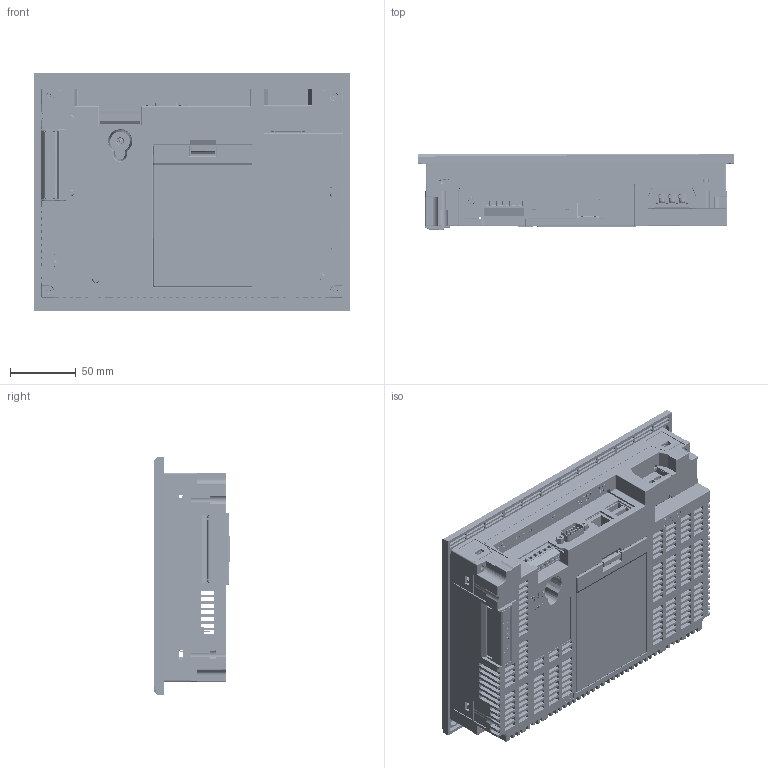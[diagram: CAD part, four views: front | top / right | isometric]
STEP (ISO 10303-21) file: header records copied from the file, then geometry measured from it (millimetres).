
FILE_DESCRIPTION((''),'2;1');
FILE_NAME('IXP50_ASM_160817_IGS','2016-08-17T',('jwkwack'),(''),'PRO/ENGINEER BY PARAMETRIC TECHNOLOGY CORPORATION, 2013240','PRO/ENGINEER BY PARAMETRIC TECHNOLOGY CORPORATION, 2013240','');
FILE_SCHEMA(('CONFIG_CONTROL_DESIGN'));
Products named in the file (1): IXP50_ASM_160817_IGS
Bounding box: 240 x 57.33 x 180 mm (x, y, z)
Surface area: 702072.2 mm2 (no closed solid volume)
Topology: 0 solids, 60 shells, 14452 faces, 42207 edges, 27456 vertices
Faces by surface type: plane 12418, cylinder 1656, cone 171, torus 122, sphere 49, bspline 28, extrusion 8
Entity records: 475406 total; most frequent: CARTESIAN_POINT 92551, ORIENTED_EDGE 81491, DIRECTION 73590, EDGE_CURVE 42159, VECTOR 36364, LINE 36356, VERTEX_POINT 27456, AXIS2_PLACEMENT_3D 18613
